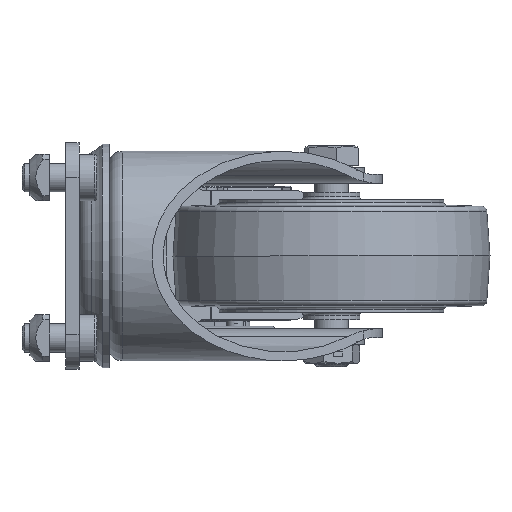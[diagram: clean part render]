
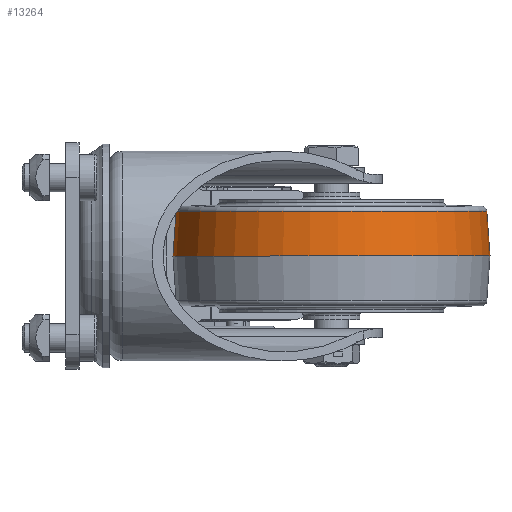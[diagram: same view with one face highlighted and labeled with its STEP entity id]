
A CAD part, left-side view. The second image highlights one B-rep face of the part: STEP entity #13264.
In plain terms, the highlighted conical face has half-angle 4.08 degrees and reference radius 44.501 mm.
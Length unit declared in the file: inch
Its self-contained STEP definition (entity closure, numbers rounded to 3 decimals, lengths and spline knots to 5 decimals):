
#13233=CARTESIAN_POINT('',(-1.71683,0.0,0.49312));
#13234=VERTEX_POINT('',#13233);
#13235=CARTESIAN_POINT('',(0.0,0.0,0.49312));
#13236=DIRECTION('',(0.0,0.0,-1.0));
#13237=DIRECTION('',(-1.0,0.0,0.0));
#13238=AXIS2_PLACEMENT_3D('',#13235,#13236,#13237);
#13239=CIRCLE('',#13238,1.71683);
#13240=EDGE_CURVE('',#13234,#13234,#13239,.T.);
#13245=CARTESIAN_POINT('',(0.0,0.0,0.0));
#13246=DIRECTION('',(0.0,0.0,-1.0));
#13247=DIRECTION('',(-1.0,0.0,0.0));
#13248=AXIS2_PLACEMENT_3D('',#13245,#13246,#13247);
#13249=CONICAL_SURFACE('',#13248,1.752,4.08);
#13250=ORIENTED_EDGE('',*,*,#13240,.T.);
#13251=EDGE_LOOP('',(#13250));
#13252=FACE_OUTER_BOUND('',#13251,.T.);
#13253=CARTESIAN_POINT('',(-1.752,0.,0.0));
#13254=VERTEX_POINT('',#13253);
#13255=CARTESIAN_POINT('',(0.0,0.0,0.0));
#13256=DIRECTION('',(0.0,0.0,-1.0));
#13257=DIRECTION('',(-1.0,0.0,0.0));
#13258=AXIS2_PLACEMENT_3D('',#13255,#13256,#13257);
#13259=CIRCLE('',#13258,1.752);
#13260=EDGE_CURVE('',#13254,#13254,#13259,.T.);
#13261=ORIENTED_EDGE('',*,*,#13260,.F.);
#13262=EDGE_LOOP('',(#13261));
#13263=FACE_BOUND('',#13262,.T.);
#13264=ADVANCED_FACE('',(#13252,#13263),#13249,.T.);
